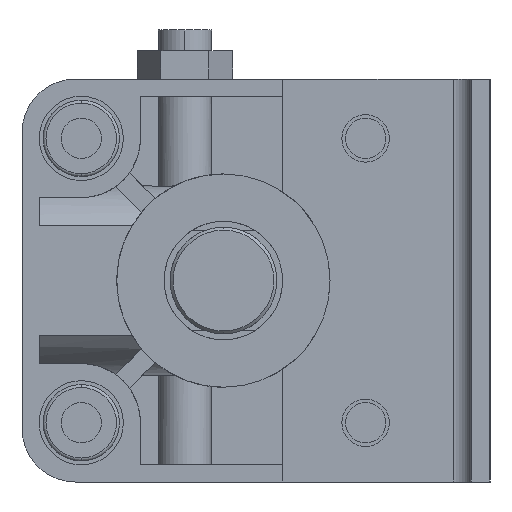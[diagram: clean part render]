
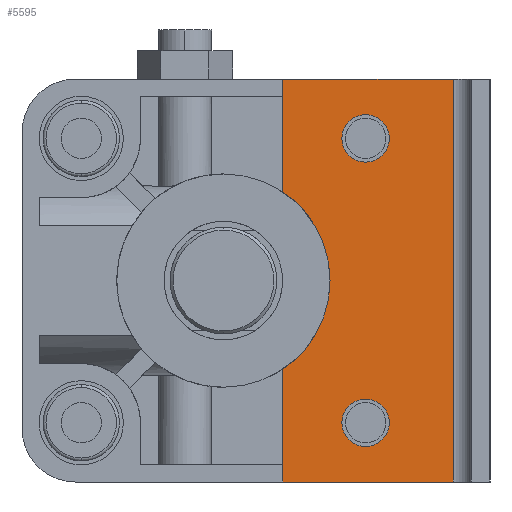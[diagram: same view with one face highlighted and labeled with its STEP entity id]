
A CAD part, left-side view. The second image highlights one B-rep face of the part: STEP entity #5595.
In plain terms, the highlighted planar face has unit normal (-1, 0, 0) as drawn and (0, 0, 1) by its records, which use the part's own axes.
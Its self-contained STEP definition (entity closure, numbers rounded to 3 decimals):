
#56 = DIRECTION ( 'NONE',  ( 1., 0., 0. ) ) ;
#247 = VERTEX_POINT ( 'NONE', #2100 ) ;
#266 = VECTOR ( 'NONE', #7030, 1000. ) ;
#330 = AXIS2_PLACEMENT_3D ( 'NONE', #1611, #341, #56 ) ;
#341 = DIRECTION ( 'NONE',  ( 0., 0., -1. ) ) ;
#357 = CARTESIAN_POINT ( 'NONE',  ( 0., -38.8, 0. ) ) ;
#364 = CARTESIAN_POINT ( 'NONE',  ( -34., -38.8, 0. ) ) ;
#388 = CARTESIAN_POINT ( 'NONE',  ( -14.967, -10., 0. ) ) ;
#390 = AXIS2_PLACEMENT_3D ( 'NONE', #1180, #6939, #1901 ) ;
#415 = EDGE_CURVE ( 'NONE', #1293, #6218, #2846, .T. ) ;
#570 = VECTOR ( 'NONE', #3548, 1000. ) ;
#751 = DIRECTION ( 'NONE',  ( 0., 0., -1. ) ) ;
#796 = ORIENTED_EDGE ( 'NONE', *, *, #4431, .F. ) ;
#877 = DIRECTION ( 'NONE',  ( 1., 0., 0. ) ) ;
#920 = FACE_BOUND ( 'NONE', #2974, .T. ) ;
#947 = CIRCLE ( 'NONE', #5085, 4. ) ;
#1102 = CARTESIAN_POINT ( 'NONE',  ( 34., -10., 0. ) ) ;
#1180 = CARTESIAN_POINT ( 'NONE',  ( 0., 0., 0. ) ) ;
#1189 = CIRCLE ( 'NONE', #7835, 4. ) ;
#1227 = VERTEX_POINT ( 'NONE', #2648 ) ;
#1293 = VERTEX_POINT ( 'NONE', #364 ) ;
#1361 = ORIENTED_EDGE ( 'NONE', *, *, #415, .F. ) ;
#1453 = VERTEX_POINT ( 'NONE', #1102 ) ;
#1476 = VERTEX_POINT ( 'NONE', #3277 ) ;
#1488 = DIRECTION ( 'NONE',  ( 1., 0., 0. ) ) ;
#1611 = CARTESIAN_POINT ( 'NONE',  ( -24., -24., 0. ) ) ;
#1768 = FACE_BOUND ( 'NONE', #7304, .T. ) ;
#1901 = DIRECTION ( 'NONE',  ( 1., 0., 0. ) ) ;
#2068 = ORIENTED_EDGE ( 'NONE', *, *, #3428, .T. ) ;
#2100 = CARTESIAN_POINT ( 'NONE',  ( 20., -24., 0. ) ) ;
#2122 = DIRECTION ( 'NONE',  ( -1., 0., 0. ) ) ;
#2153 = VERTEX_POINT ( 'NONE', #7532 ) ;
#2273 = AXIS2_PLACEMENT_3D ( 'NONE', #4356, #7116, #1488 ) ;
#2648 = CARTESIAN_POINT ( 'NONE',  ( -20., -24., 0. ) ) ;
#2670 = AXIS2_PLACEMENT_3D ( 'NONE', #5101, #6524, #8785 ) ;
#2846 = LINE ( 'NONE', #6863, #266 ) ;
#2968 = VECTOR ( 'NONE', #4515, 1000. ) ;
#2974 = EDGE_LOOP ( 'NONE', ( #2068, #3336 ) ) ;
#2975 = CIRCLE ( 'NONE', #330, 4. ) ;
#3231 = EDGE_CURVE ( 'NONE', #1453, #2153, #3338, .T. ) ;
#3243 = EDGE_CURVE ( 'NONE', #8158, #247, #947, .T. ) ;
#3277 = CARTESIAN_POINT ( 'NONE',  ( 14.967, -10., 0. ) ) ;
#3336 = ORIENTED_EDGE ( 'NONE', *, *, #5903, .T. ) ;
#3338 = LINE ( 'NONE', #4464, #6270 ) ;
#3342 = EDGE_CURVE ( 'NONE', #1476, #3541, #5848, .T. ) ;
#3384 = LINE ( 'NONE', #357, #2968 ) ;
#3428 = EDGE_CURVE ( 'NONE', #1227, #6420, #2975, .T. ) ;
#3455 = VECTOR ( 'NONE', #2122, 1000. ) ;
#3471 = EDGE_LOOP ( 'NONE', ( #5290, #8396, #1361, #796, #3935, #3476 ) ) ;
#3476 = ORIENTED_EDGE ( 'NONE', *, *, #7987, .T. ) ;
#3541 = VERTEX_POINT ( 'NONE', #388 ) ;
#3548 = DIRECTION ( 'NONE',  ( -1., 0., 0. ) ) ;
#3719 = CARTESIAN_POINT ( 'NONE',  ( 28., -24., 0. ) ) ;
#3733 = EDGE_CURVE ( 'NONE', #3541, #6218, #4885, .T. ) ;
#3935 = ORIENTED_EDGE ( 'NONE', *, *, #3231, .F. ) ;
#3996 = CARTESIAN_POINT ( 'NONE',  ( 0., -10., 0. ) ) ;
#4356 = CARTESIAN_POINT ( 'NONE',  ( -34., -38.8, 0. ) ) ;
#4431 = EDGE_CURVE ( 'NONE', #2153, #1293, #3384, .T. ) ;
#4464 = CARTESIAN_POINT ( 'NONE',  ( 34., -27.5, 0. ) ) ;
#4515 = DIRECTION ( 'NONE',  ( -1., 0., 0. ) ) ;
#4885 = LINE ( 'NONE', #3996, #3455 ) ;
#5085 = AXIS2_PLACEMENT_3D ( 'NONE', #6331, #751, #877 ) ;
#5101 = CARTESIAN_POINT ( 'NONE',  ( 24., -24., 0. ) ) ;
#5290 = ORIENTED_EDGE ( 'NONE', *, *, #3342, .T. ) ;
#5348 = ORIENTED_EDGE ( 'NONE', *, *, #3243, .T. ) ;
#5398 = DIRECTION ( 'NONE',  ( 0., 0., -1. ) ) ;
#5595 = ADVANCED_FACE ( 'NONE', ( #920, #1768, #8778 ), #7799, .T. ) ;
#5683 = CARTESIAN_POINT ( 'NONE',  ( -24., -24., 0. ) ) ;
#5848 = CIRCLE ( 'NONE', #390, 18. ) ;
#5903 = EDGE_CURVE ( 'NONE', #6420, #1227, #1189, .T. ) ;
#5909 = EDGE_CURVE ( 'NONE', #247, #8158, #6238, .T. ) ;
#6218 = VERTEX_POINT ( 'NONE', #8200 ) ;
#6238 = CIRCLE ( 'NONE', #2670, 4. ) ;
#6270 = VECTOR ( 'NONE', #8443, 1000. ) ;
#6331 = CARTESIAN_POINT ( 'NONE',  ( 24., -24., 0. ) ) ;
#6420 = VERTEX_POINT ( 'NONE', #8783 ) ;
#6524 = DIRECTION ( 'NONE',  ( 0., 0., -1. ) ) ;
#6863 = CARTESIAN_POINT ( 'NONE',  ( -34., -27.5, 0. ) ) ;
#6939 = DIRECTION ( 'NONE',  ( 0., 0., -1. ) ) ;
#7030 = DIRECTION ( 'NONE',  ( 0., 1., 0. ) ) ;
#7116 = DIRECTION ( 'NONE',  ( 0., 0., 1. ) ) ;
#7120 = DIRECTION ( 'NONE',  ( 1., 0., 0. ) ) ;
#7222 = ORIENTED_EDGE ( 'NONE', *, *, #5909, .T. ) ;
#7304 = EDGE_LOOP ( 'NONE', ( #5348, #7222 ) ) ;
#7422 = LINE ( 'NONE', #7562, #570 ) ;
#7532 = CARTESIAN_POINT ( 'NONE',  ( 34., -38.8, 0. ) ) ;
#7562 = CARTESIAN_POINT ( 'NONE',  ( 0., -10., 0. ) ) ;
#7799 = PLANE ( 'NONE',  #2273 ) ;
#7835 = AXIS2_PLACEMENT_3D ( 'NONE', #5683, #5398, #7120 ) ;
#7987 = EDGE_CURVE ( 'NONE', #1453, #1476, #7422, .T. ) ;
#8158 = VERTEX_POINT ( 'NONE', #3719 ) ;
#8200 = CARTESIAN_POINT ( 'NONE',  ( -34., -10., 0. ) ) ;
#8396 = ORIENTED_EDGE ( 'NONE', *, *, #3733, .T. ) ;
#8443 = DIRECTION ( 'NONE',  ( 0., -1., 0. ) ) ;
#8778 = FACE_OUTER_BOUND ( 'NONE', #3471, .T. ) ;
#8783 = CARTESIAN_POINT ( 'NONE',  ( -28., -24., 0. ) ) ;
#8785 = DIRECTION ( 'NONE',  ( 1., 0., 0. ) ) ;
